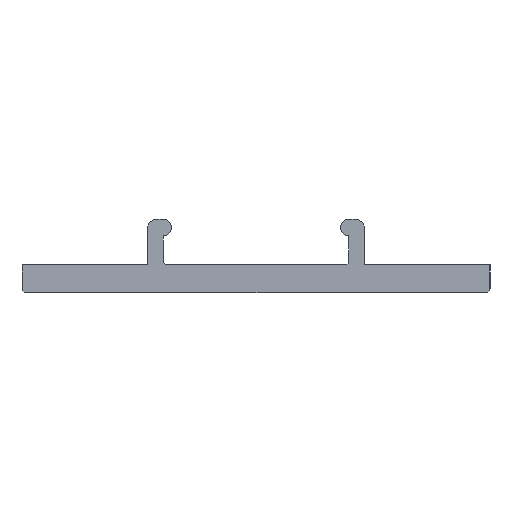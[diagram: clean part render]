
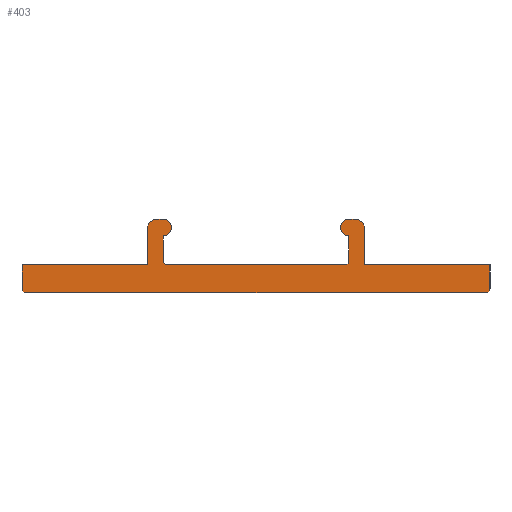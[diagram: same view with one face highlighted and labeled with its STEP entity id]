
A CAD part, left-side view. The second image highlights one B-rep face of the part: STEP entity #403.
In plain terms, the highlighted planar face has unit normal (-1, 0, 0).
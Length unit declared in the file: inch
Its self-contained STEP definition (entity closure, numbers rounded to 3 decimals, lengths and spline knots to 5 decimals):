
#9=DIRECTION('',(0.,0.,-1.));
#10=VECTOR('',#9,0.09843);
#11=CARTESIAN_POINT('',(-24.,0.98425,0.));
#12=LINE('',#11,#10);
#13=DIRECTION('',(0.,1.,0.));
#14=VECTOR('',#13,0.52756);
#15=CARTESIAN_POINT('',(-24.,0.45669,0.));
#16=LINE('',#15,#14);
#17=DIRECTION('',(0.,0.,-1.));
#18=VECTOR('',#17,0.15354);
#19=CARTESIAN_POINT('',(-24.,0.45669,0.15354));
#20=LINE('',#19,#18);
#21=CARTESIAN_POINT('',(-24.,0.41732,0.15354));
#22=DIRECTION('',(-1.,0.,0.));
#23=DIRECTION('',(0.,0.,1.));
#24=AXIS2_PLACEMENT_3D('',#21,#22,#23);
#26=DIRECTION('',(0.,1.,0.));
#27=VECTOR('',#26,0.02756);
#28=CARTESIAN_POINT('',(-24.,0.38976,0.19291));
#29=LINE('',#28,#27);
#30=CARTESIAN_POINT('',(-24.,0.38976,0.15748));
#31=DIRECTION('',(-1.,0.,0.));
#32=DIRECTION('',(0.,0.,-1.));
#33=AXIS2_PLACEMENT_3D('',#30,#31,#32);
#35=DIRECTION('',(0.,0.,1.));
#36=VECTOR('',#35,0.11317);
#37=CARTESIAN_POINT('',(-24.,0.38975,0.00887));
#38=LINE('',#37,#36);
#39=CARTESIAN_POINT('',(-24.,0.38189,0.));
#40=CARTESIAN_POINT('',(-24.,0.38357,0.));
#41=CARTESIAN_POINT('',(-24.,0.38632,0.00068));
#42=CARTESIAN_POINT('',(-24.,0.38978,0.00539));
#43=CARTESIAN_POINT('',(-24.,0.38942,0.00596));
#44=CARTESIAN_POINT('',(-24.,0.38975,0.00887));
#46=DIRECTION('',(0.,1.,0.));
#47=VECTOR('',#46,0.76378);
#48=CARTESIAN_POINT('',(-24.,-0.38189,0.));
#49=LINE('',#48,#47);
#50=CARTESIAN_POINT('',(-24.,-0.38976,0.00743));
#51=CARTESIAN_POINT('',(-24.,-0.38976,0.00598));
#52=CARTESIAN_POINT('',(-24.,-0.38808,0.0024));
#53=CARTESIAN_POINT('',(-24.,-0.38564,0.00077));
#54=CARTESIAN_POINT('',(-24.,-0.38323,0.));
#55=CARTESIAN_POINT('',(-24.,-0.38189,0.));
#57=DIRECTION('',(0.,0.,-1.));
#58=VECTOR('',#57,0.11462);
#59=CARTESIAN_POINT('',(-24.,-0.38976,0.12205));
#60=LINE('',#59,#58);
#61=CARTESIAN_POINT('',(-24.,-0.38976,0.15748));
#62=DIRECTION('',(-1.,0.,0.));
#63=DIRECTION('',(0.,0.,1.));
#64=AXIS2_PLACEMENT_3D('',#61,#62,#63);
#66=DIRECTION('',(0.,1.,0.));
#67=VECTOR('',#66,0.02756);
#68=CARTESIAN_POINT('',(-24.,-0.41732,0.19291));
#69=LINE('',#68,#67);
#70=CARTESIAN_POINT('',(-24.,-0.41732,0.15354));
#71=DIRECTION('',(-1.,0.,0.));
#72=DIRECTION('',(0.,-1.,0.));
#73=AXIS2_PLACEMENT_3D('',#70,#71,#72);
#75=DIRECTION('',(0.,0.,1.));
#76=VECTOR('',#75,0.15354);
#77=CARTESIAN_POINT('',(-24.,-0.45669,0.));
#78=LINE('',#77,#76);
#79=DIRECTION('',(0.,1.,0.));
#80=VECTOR('',#79,0.52756);
#81=CARTESIAN_POINT('',(-24.,-0.98425,0.));
#82=LINE('',#81,#80);
#83=DIRECTION('',(0.,0.,1.));
#84=VECTOR('',#83,0.09843);
#85=CARTESIAN_POINT('',(-24.,-0.98425,-0.09843));
#86=LINE('',#85,#84);
#87=CARTESIAN_POINT('',(-24.,-0.96457,-0.09843));
#88=DIRECTION('',(-1.,0.,0.));
#89=DIRECTION('',(0.,0.,-1.));
#90=AXIS2_PLACEMENT_3D('',#87,#88,#89);
#92=DIRECTION('',(0.,-1.,0.));
#93=VECTOR('',#92,1.92913);
#94=CARTESIAN_POINT('',(-24.,0.96457,-0.11811));
#95=LINE('',#94,#93);
#96=CARTESIAN_POINT('',(-24.,0.96457,-0.09843));
#97=DIRECTION('',(-1.,0.,0.));
#98=DIRECTION('',(0.,1.,0.));
#99=AXIS2_PLACEMENT_3D('',#96,#97,#98);
#265=CARTESIAN_POINT('',(-24.,0.98425,0.));
#267=VERTEX_POINT('',#265);
#273=CARTESIAN_POINT('',(-24.,-0.98425,-0.09843));
#274=CARTESIAN_POINT('',(-24.,-0.98425,0.));
#275=VERTEX_POINT('',#273);
#276=VERTEX_POINT('',#274);
#277=CARTESIAN_POINT('',(-24.,-0.38976,0.19291));
#278=CARTESIAN_POINT('',(-24.,-0.38976,0.12205));
#279=VERTEX_POINT('',#277);
#280=VERTEX_POINT('',#278);
#282=CARTESIAN_POINT('',(-24.,-0.41732,0.19291));
#284=VERTEX_POINT('',#282);
#287=CARTESIAN_POINT('',(-24.,0.45669,0.15354));
#288=CARTESIAN_POINT('',(-24.,0.45669,0.));
#289=VERTEX_POINT('',#287);
#290=VERTEX_POINT('',#288);
#295=CARTESIAN_POINT('',(-24.,-0.96457,-0.11811));
#296=VERTEX_POINT('',#295);
#298=CARTESIAN_POINT('',(-24.,0.96457,-0.11811));
#300=VERTEX_POINT('',#298);
#310=CARTESIAN_POINT('',(-24.,-0.45669,0.));
#311=CARTESIAN_POINT('',(-24.,-0.45669,0.15354));
#312=VERTEX_POINT('',#310);
#313=VERTEX_POINT('',#311);
#314=CARTESIAN_POINT('',(-24.,-0.38189,0.));
#315=CARTESIAN_POINT('',(-24.,0.38189,0.));
#316=VERTEX_POINT('',#314);
#317=VERTEX_POINT('',#315);
#318=CARTESIAN_POINT('',(-24.,0.38976,0.19291));
#319=VERTEX_POINT('',#318);
#320=VERTEX_POINT('',#44);
#321=CARTESIAN_POINT('',(-24.,0.98425,-0.09843));
#322=VERTEX_POINT('',#321);
#328=CARTESIAN_POINT('',(-24.,0.41732,0.19291));
#329=VERTEX_POINT('',#328);
#332=CARTESIAN_POINT('',(-24.,0.38976,0.12205));
#333=VERTEX_POINT('',#332);
#334=VERTEX_POINT('',#50);
#357=CARTESIAN_POINT('',(-24.,0.41732,0.15354));
#358=DIRECTION('',(-1.,0.,0.));
#359=DIRECTION('',(0.,0.,1.));
#360=AXIS2_PLACEMENT_3D('',#357,#358,#359);
#361=PLANE('',#360);
#363=ORIENTED_EDGE('',*,*,#362,.F.);
#365=ORIENTED_EDGE('',*,*,#364,.F.);
#367=ORIENTED_EDGE('',*,*,#366,.F.);
#369=ORIENTED_EDGE('',*,*,#368,.F.);
#371=ORIENTED_EDGE('',*,*,#370,.F.);
#373=ORIENTED_EDGE('',*,*,#372,.F.);
#375=ORIENTED_EDGE('',*,*,#374,.F.);
#377=ORIENTED_EDGE('',*,*,#376,.F.);
#379=ORIENTED_EDGE('',*,*,#378,.F.);
#381=ORIENTED_EDGE('',*,*,#380,.F.);
#383=ORIENTED_EDGE('',*,*,#382,.F.);
#385=ORIENTED_EDGE('',*,*,#384,.F.);
#387=ORIENTED_EDGE('',*,*,#386,.F.);
#388=ORIENTED_EDGE('',*,*,#346,.F.);
#390=ORIENTED_EDGE('',*,*,#389,.F.);
#392=ORIENTED_EDGE('',*,*,#391,.F.);
#394=ORIENTED_EDGE('',*,*,#393,.F.);
#396=ORIENTED_EDGE('',*,*,#395,.F.);
#398=ORIENTED_EDGE('',*,*,#397,.F.);
#400=ORIENTED_EDGE('',*,*,#399,.F.);
#401=EDGE_LOOP('',(#363,#365,#367,#369,#371,#373,#375,#377,#379,#381,#383,#385,
#387,#388,#390,#392,#394,#396,#398,#400));
#402=FACE_OUTER_BOUND('',#401,.F.);
#25=CIRCLE('',#24,0.03937);
#34=CIRCLE('',#33,0.03543);
#45=B_SPLINE_CURVE_WITH_KNOTS('',3,(#39,#40,#41,#42,#43,#44),.UNSPECIFIED.,.F.,
.F.,(4,1,1,4),(0.,0.33333,0.66667,1.),.UNSPECIFIED.);
#56=B_SPLINE_CURVE_WITH_KNOTS('',3,(#50,#51,#52,#53,#54,#55),.UNSPECIFIED.,.F.,
.F.,(4,1,1,4),(0.,0.33333,0.66667,1.),.UNSPECIFIED.);
#65=CIRCLE('',#64,0.03543);
#74=CIRCLE('',#73,0.03937);
#91=CIRCLE('',#90,0.01969);
#100=CIRCLE('',#99,0.01969);
#346=EDGE_CURVE('',#313,#284,#74,.T.);
#362=EDGE_CURVE('',#267,#322,#12,.T.);
#364=EDGE_CURVE('',#290,#267,#16,.T.);
#366=EDGE_CURVE('',#289,#290,#20,.T.);
#368=EDGE_CURVE('',#329,#289,#25,.T.);
#370=EDGE_CURVE('',#319,#329,#29,.T.);
#372=EDGE_CURVE('',#333,#319,#34,.T.);
#374=EDGE_CURVE('',#320,#333,#38,.T.);
#376=EDGE_CURVE('',#317,#320,#45,.T.);
#378=EDGE_CURVE('',#316,#317,#49,.T.);
#380=EDGE_CURVE('',#334,#316,#56,.T.);
#382=EDGE_CURVE('',#280,#334,#60,.T.);
#384=EDGE_CURVE('',#279,#280,#65,.T.);
#386=EDGE_CURVE('',#284,#279,#69,.T.);
#389=EDGE_CURVE('',#312,#313,#78,.T.);
#391=EDGE_CURVE('',#276,#312,#82,.T.);
#393=EDGE_CURVE('',#275,#276,#86,.T.);
#395=EDGE_CURVE('',#296,#275,#91,.T.);
#397=EDGE_CURVE('',#300,#296,#95,.T.);
#399=EDGE_CURVE('',#322,#300,#100,.T.);
#403=ADVANCED_FACE('',(#402),#361,.T.);
